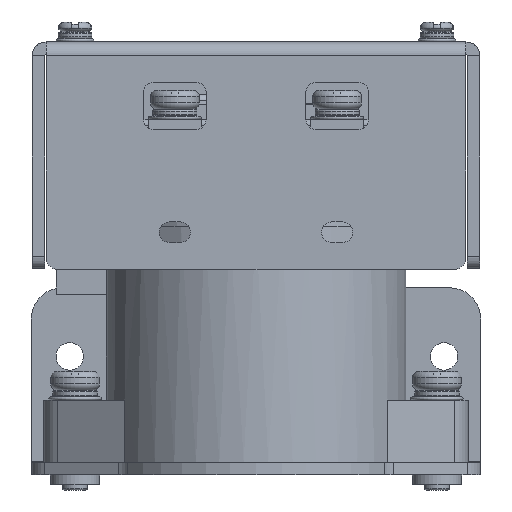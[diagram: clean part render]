
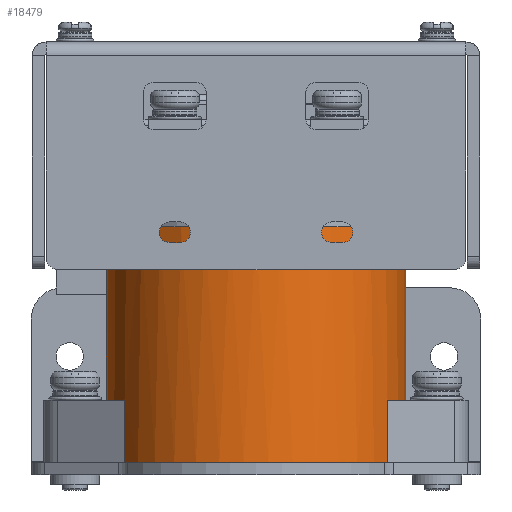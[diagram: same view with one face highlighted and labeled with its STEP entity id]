
A CAD part, front view. The second image highlights one B-rep face of the part: STEP entity #18479.
In plain terms, the highlighted cylindrical face has radius 24 mm (diameter 48 mm), a full revolution.
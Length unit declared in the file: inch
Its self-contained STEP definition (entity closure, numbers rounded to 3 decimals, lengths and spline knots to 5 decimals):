
#2328=LINE('',#32996,#3789);
#2329=LINE('',#32997,#3790);
#2330=LINE('',#32998,#3791);
#2331=LINE('',#32999,#3792);
#2332=LINE('',#33000,#3793);
#3789=VECTOR('',#25597,0.94488);
#3790=VECTOR('',#25598,0.3937);
#3791=VECTOR('',#25599,0.3937);
#3792=VECTOR('',#25600,0.3937);
#3793=VECTOR('',#25601,0.3937);
#4232=CYLINDRICAL_SURFACE('',#20446,0.94488);
#5161=FACE_OUTER_BOUND('',#6329,.T.);
#6329=EDGE_LOOP('',(#16655,#16656,#16657,#16658,#16659,#16660,#16661,#16662,
#16663,#16664,#16665,#16666));
#6511=CIRCLE('',#18724,0.94488);
#6513=CIRCLE('',#18726,0.94488);
#6598=CIRCLE('',#18884,0.94488);
#6659=CIRCLE('',#18982,0.94488);
#6660=CIRCLE('',#18983,0.94488);
#7368=CIRCLE('',#20442,0.94488);
#7507=VERTEX_POINT('',#26256);
#7508=VERTEX_POINT('',#26258);
#7511=VERTEX_POINT('',#26264);
#7512=VERTEX_POINT('',#26266);
#7634=VERTEX_POINT('',#26688);
#7635=VERTEX_POINT('',#26689);
#7711=VERTEX_POINT('',#26949);
#7712=VERTEX_POINT('',#26950);
#7713=VERTEX_POINT('',#26952);
#9048=VERTEX_POINT('',#32989);
#9305=EDGE_CURVE('',#7508,#7507,#6511,.T.);
#9309=EDGE_CURVE('',#7512,#7511,#6513,.T.);
#9496=EDGE_CURVE('',#7634,#7635,#6598,.T.);
#9603=EDGE_CURVE('',#7711,#7712,#6659,.T.);
#9604=EDGE_CURVE('',#7712,#7713,#6660,.T.);
#11611=EDGE_CURVE('',#9048,#9048,#7368,.T.);
#11613=EDGE_CURVE('',#9048,#7712,#2328,.T.);
#11614=EDGE_CURVE('',#7508,#7711,#2329,.T.);
#11615=EDGE_CURVE('',#7507,#7635,#2330,.T.);
#11616=EDGE_CURVE('',#7512,#7634,#2331,.T.);
#11617=EDGE_CURVE('',#7511,#7713,#2332,.T.);
#16655=ORIENTED_EDGE('',*,*,#11611,.T.);
#16656=ORIENTED_EDGE('',*,*,#11613,.T.);
#16657=ORIENTED_EDGE('',*,*,#9603,.F.);
#16658=ORIENTED_EDGE('',*,*,#11614,.F.);
#16659=ORIENTED_EDGE('',*,*,#9305,.T.);
#16660=ORIENTED_EDGE('',*,*,#11615,.T.);
#16661=ORIENTED_EDGE('',*,*,#9496,.F.);
#16662=ORIENTED_EDGE('',*,*,#11616,.F.);
#16663=ORIENTED_EDGE('',*,*,#9309,.T.);
#16664=ORIENTED_EDGE('',*,*,#11617,.T.);
#16665=ORIENTED_EDGE('',*,*,#9604,.F.);
#16666=ORIENTED_EDGE('',*,*,#11613,.F.);
#18479=ADVANCED_FACE('',(#5161),#4232,.T.);
#18724=AXIS2_PLACEMENT_3D('',#26259,#20877,#20878);
#18726=AXIS2_PLACEMENT_3D('',#26267,#20883,#20884);
#18884=AXIS2_PLACEMENT_3D('',#26690,#21293,#21294);
#18982=AXIS2_PLACEMENT_3D('',#26951,#21527,#21528);
#18983=AXIS2_PLACEMENT_3D('',#26953,#21529,#21530);
#20442=AXIS2_PLACEMENT_3D('',#32990,#25586,#25587);
#20446=AXIS2_PLACEMENT_3D('',#32995,#25595,#25596);
#20877=DIRECTION('center_axis',(0.,0.,1.));
#20878=DIRECTION('ref_axis',(1.,0.,0.));
#20883=DIRECTION('center_axis',(0.,0.,1.));
#20884=DIRECTION('ref_axis',(1.,0.,0.));
#21293=DIRECTION('center_axis',(0.,0.,-1.));
#21294=DIRECTION('ref_axis',(1.,0.,0.));
#21527=DIRECTION('center_axis',(0.,0.,-1.));
#21528=DIRECTION('ref_axis',(1.,0.,0.));
#21529=DIRECTION('center_axis',(0.,0.,-1.));
#21530=DIRECTION('ref_axis',(1.,0.,0.));
#25586=DIRECTION('center_axis',(0.,0.,-1.));
#25587=DIRECTION('ref_axis',(1.,0.,0.));
#25595=DIRECTION('center_axis',(0.,0.,1.));
#25596=DIRECTION('ref_axis',(1.,0.,0.));
#25597=DIRECTION('',(0.,0.,-1.));
#25598=DIRECTION('',(0.,0.,1.));
#25599=DIRECTION('',(0.,0.,1.));
#25600=DIRECTION('',(0.,0.,1.));
#25601=DIRECTION('',(0.,0.,1.));
#26256=CARTESIAN_POINT('',(0.82983,-0.45186,0.));
#26258=CARTESIAN_POINT('',(-0.82983,-0.45186,0.));
#26259=CARTESIAN_POINT('Origin',(0.,0.,0.));
#26264=CARTESIAN_POINT('',(-0.81829,0.47244,0.));
#26266=CARTESIAN_POINT('',(0.81829,0.47244,0.));
#26267=CARTESIAN_POINT('Origin',(0.,0.,0.));
#26688=CARTESIAN_POINT('',(0.81829,0.47244,0.3937));
#26689=CARTESIAN_POINT('',(0.82983,-0.45186,0.3937));
#26690=CARTESIAN_POINT('Origin',(0.,0.,0.3937));
#26949=CARTESIAN_POINT('',(-0.82983,-0.45186,0.3937));
#26950=CARTESIAN_POINT('',(-0.94488,0.,0.3937));
#26951=CARTESIAN_POINT('Origin',(0.,0.,0.3937));
#26952=CARTESIAN_POINT('',(-0.81829,0.47244,0.3937));
#26953=CARTESIAN_POINT('Origin',(0.,0.,0.3937));
#32989=CARTESIAN_POINT('',(-0.94488,0.,1.48819));
#32990=CARTESIAN_POINT('Origin',(0.,0.,1.48819));
#32995=CARTESIAN_POINT('Origin',(0.,0.,0.));
#32996=CARTESIAN_POINT('',(-0.94488,0.,0.));
#32997=CARTESIAN_POINT('',(-0.82983,-0.45186,0.));
#32998=CARTESIAN_POINT('',(0.82983,-0.45186,0.));
#32999=CARTESIAN_POINT('',(0.81829,0.47244,0.));
#33000=CARTESIAN_POINT('',(-0.81829,0.47244,0.));
